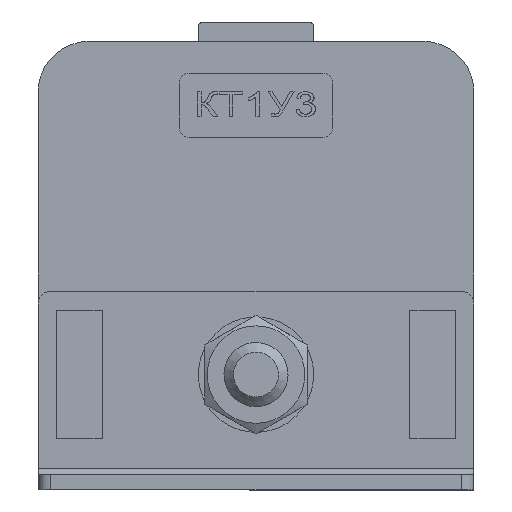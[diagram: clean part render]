
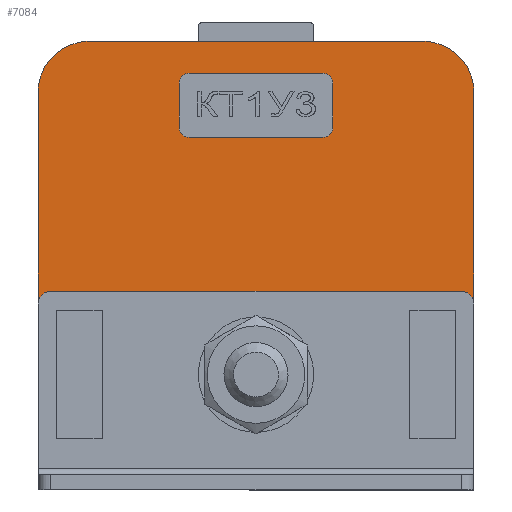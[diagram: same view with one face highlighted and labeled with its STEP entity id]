
A CAD part, left-side view. The second image highlights one B-rep face of the part: STEP entity #7084.
In plain terms, the highlighted planar face has unit normal (-1, 0, 0).
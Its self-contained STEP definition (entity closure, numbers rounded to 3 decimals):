
#7084=ADVANCED_FACE('',(#66241,#66243),#66245,.T.);
#66241=FACE_BOUND('',#66242,.T.);
#66242=EDGE_LOOP('',(#115467,#115468,#115469,#115470,#115471,#115472,#115473,#115474));
#66243=FACE_BOUND('',#66244,.T.);
#66244=EDGE_LOOP('',(#115475,#115476,#115477,#115478,#115479,#115480,#115481,#115482));
#66245=PLANE('',#66246);
#66246=AXIS2_PLACEMENT_3D('',#66247,#66248,#66249);
#66247=CARTESIAN_POINT('',(-59.5,0.,0.));
#66248=DIRECTION('',(-1.,0.,0.));
#66249=DIRECTION('',(0.,-1.,0.));
#115467=ORIENTED_EDGE('',*,*,#151513,.F.);
#115468=ORIENTED_EDGE('',*,*,#149808,.T.);
#115469=ORIENTED_EDGE('',*,*,#151512,.T.);
#115470=ORIENTED_EDGE('',*,*,#151514,.T.);
#115471=ORIENTED_EDGE('',*,*,#151515,.T.);
#115472=ORIENTED_EDGE('',*,*,#149917,.T.);
#115473=ORIENTED_EDGE('',*,*,#151516,.F.);
#115474=ORIENTED_EDGE('',*,*,#151517,.F.);
#115475=ORIENTED_EDGE('',*,*,#151518,.T.);
#115476=ORIENTED_EDGE('',*,*,#151519,.T.);
#115477=ORIENTED_EDGE('',*,*,#151520,.T.);
#115478=ORIENTED_EDGE('',*,*,#151521,.T.);
#115479=ORIENTED_EDGE('',*,*,#151522,.T.);
#115480=ORIENTED_EDGE('',*,*,#151523,.T.);
#115481=ORIENTED_EDGE('',*,*,#151524,.T.);
#115482=ORIENTED_EDGE('',*,*,#151525,.T.);
#149808=EDGE_CURVE('',#169406,#169404,#169407,.T.);
#149917=EDGE_CURVE('',#169616,#169614,#169617,.T.);
#151512=EDGE_CURVE('',#169404,#172083,#172085,.T.);
#151513=EDGE_CURVE('',#169406,#172086,#172087,.F.);
#151514=EDGE_CURVE('',#172083,#172088,#172089,.T.);
#151515=EDGE_CURVE('',#172088,#169616,#172090,.T.);
#151516=EDGE_CURVE('',#172091,#169614,#172092,.F.);
#151517=EDGE_CURVE('',#172086,#172091,#172093,.T.);
#151518=EDGE_CURVE('',#172094,#172095,#172096,.F.);
#151519=EDGE_CURVE('',#172095,#172097,#172098,.F.);
#151520=EDGE_CURVE('',#172097,#172099,#172100,.F.);
#151521=EDGE_CURVE('',#172099,#172101,#172102,.F.);
#151522=EDGE_CURVE('',#172101,#172103,#172104,.F.);
#151523=EDGE_CURVE('',#172103,#172105,#172106,.F.);
#151524=EDGE_CURVE('',#172105,#172107,#172108,.F.);
#151525=EDGE_CURVE('',#172107,#172094,#172109,.F.);
#169404=VERTEX_POINT('',#202776);
#169406=VERTEX_POINT('',#202780);
#169407=LINE('',#202781,#202782);
#169614=VERTEX_POINT('',#203221);
#169616=VERTEX_POINT('',#203225);
#169617=LINE('',#203226,#203227);
#172083=VERTEX_POINT('',#209391);
#172085=CIRCLE('',#209395,4.);
#172086=VERTEX_POINT('',#209399);
#172087=CIRCLE('',#209400,1.);
#172088=VERTEX_POINT('',#209404);
#172089=LINE('',#209405,#209406);
#172090=CIRCLE('',#209408,4.);
#172091=VERTEX_POINT('',#209412);
#172092=CIRCLE('',#209413,1.);
#172093=LINE('',#209417,#209418);
#172094=VERTEX_POINT('',#209420);
#172095=VERTEX_POINT('',#209421);
#172096=CIRCLE('',#209422,0.8);
#172097=VERTEX_POINT('',#209426);
#172098=LINE('',#209427,#209428);
#172099=VERTEX_POINT('',#209430);
#172100=CIRCLE('',#209431,0.8);
#172101=VERTEX_POINT('',#209435);
#172102=LINE('',#209436,#209437);
#172103=VERTEX_POINT('',#209439);
#172104=CIRCLE('',#209440,0.8);
#172105=VERTEX_POINT('',#209444);
#172106=LINE('',#209445,#209446);
#172107=VERTEX_POINT('',#209448);
#172108=CIRCLE('',#209449,0.8);
#172109=LINE('',#209453,#209454);
#202776=CARTESIAN_POINT('',(-59.5,-34.,31.));
#202780=CARTESIAN_POINT('',(-59.5,-34.,14.5));
#202781=CARTESIAN_POINT('',(-59.5,-34.,14.5));
#202782=VECTOR('',#202783,1.);
#202783=DIRECTION('',(0.,0.,1.));
#203221=CARTESIAN_POINT('',(-59.5,0.,14.5));
#203225=CARTESIAN_POINT('',(-59.5,0.,31.));
#203226=CARTESIAN_POINT('',(-59.5,0.,31.));
#203227=VECTOR('',#203228,1.);
#203228=DIRECTION('',(0.,0.,-1.));
#209391=CARTESIAN_POINT('',(-59.5,-30.,35.));
#209395=AXIS2_PLACEMENT_3D('',#209396,#209397,#209398);
#209396=CARTESIAN_POINT('',(-59.5,-30.,31.));
#209397=DIRECTION('',(-1.,0.,0.));
#209398=DIRECTION('',(0.,-1.,0.));
#209399=CARTESIAN_POINT('',(-59.5,-33.,15.5));
#209400=AXIS2_PLACEMENT_3D('',#209401,#209402,#209403);
#209401=CARTESIAN_POINT('',(-59.5,-33.,14.5));
#209402=DIRECTION('',(1.,0.,0.));
#209403=DIRECTION('',(0.,0.,1.));
#209404=CARTESIAN_POINT('',(-59.5,-4.,35.));
#209405=CARTESIAN_POINT('',(-59.5,-30.,35.));
#209406=VECTOR('',#209407,1.);
#209407=DIRECTION('',(0.,1.,0.));
#209408=AXIS2_PLACEMENT_3D('',#209409,#209410,#209411);
#209409=CARTESIAN_POINT('',(-59.5,-4.,31.));
#209410=DIRECTION('',(-1.,0.,0.));
#209411=DIRECTION('',(0.,0.,1.));
#209412=CARTESIAN_POINT('',(-59.5,-1.,15.5));
#209413=AXIS2_PLACEMENT_3D('',#209414,#209415,#209416);
#209414=CARTESIAN_POINT('',(-59.5,-1.,14.5));
#209415=DIRECTION('',(1.,0.,0.));
#209416=DIRECTION('',(0.,1.,0.));
#209417=CARTESIAN_POINT('',(-59.5,-33.,15.5));
#209418=VECTOR('',#209419,1.);
#209419=DIRECTION('',(0.,1.,0.));
#209420=CARTESIAN_POINT('',(-59.5,-11.8,27.5));
#209421=CARTESIAN_POINT('',(-59.5,-11.,28.3));
#209422=AXIS2_PLACEMENT_3D('',#209423,#209424,#209425);
#209423=CARTESIAN_POINT('',(-59.5,-11.8,28.3));
#209424=DIRECTION('',(-1.,0.,0.));
#209425=DIRECTION('',(0.,1.,0.));
#209426=CARTESIAN_POINT('',(-59.5,-11.,31.7));
#209427=CARTESIAN_POINT('',(-59.5,-11.,31.7));
#209428=VECTOR('',#209429,1.);
#209429=DIRECTION('',(0.,0.,-1.));
#209430=CARTESIAN_POINT('',(-59.5,-11.8,32.5));
#209431=AXIS2_PLACEMENT_3D('',#209432,#209433,#209434);
#209432=CARTESIAN_POINT('',(-59.5,-11.8,31.7));
#209433=DIRECTION('',(-1.,0.,0.));
#209434=DIRECTION('',(0.,0.,1.));
#209435=CARTESIAN_POINT('',(-59.5,-22.2,32.5));
#209436=CARTESIAN_POINT('',(-59.5,-22.2,32.5));
#209437=VECTOR('',#209438,1.);
#209438=DIRECTION('',(0.,1.,0.));
#209439=CARTESIAN_POINT('',(-59.5,-23.,31.7));
#209440=AXIS2_PLACEMENT_3D('',#209441,#209442,#209443);
#209441=CARTESIAN_POINT('',(-59.5,-22.2,31.7));
#209442=DIRECTION('',(-1.,0.,0.));
#209443=DIRECTION('',(0.,-1.,0.));
#209444=CARTESIAN_POINT('',(-59.5,-23.,28.3));
#209445=CARTESIAN_POINT('',(-59.5,-23.,28.3));
#209446=VECTOR('',#209447,1.);
#209447=DIRECTION('',(0.,0.,1.));
#209448=CARTESIAN_POINT('',(-59.5,-22.2,27.5));
#209449=AXIS2_PLACEMENT_3D('',#209450,#209451,#209452);
#209450=CARTESIAN_POINT('',(-59.5,-22.2,28.3));
#209451=DIRECTION('',(-1.,0.,0.));
#209452=DIRECTION('',(0.,0.,-1.));
#209453=CARTESIAN_POINT('',(-59.5,-11.8,27.5));
#209454=VECTOR('',#209455,1.);
#209455=DIRECTION('',(0.,-1.,0.));
